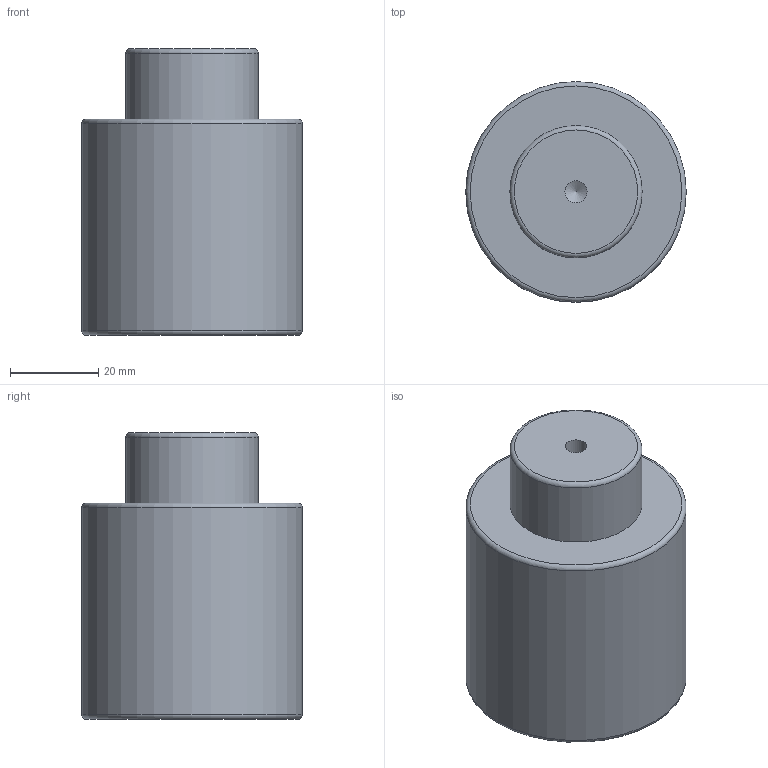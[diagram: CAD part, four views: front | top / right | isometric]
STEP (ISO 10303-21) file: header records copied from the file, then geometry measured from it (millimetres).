
FILE_DESCRIPTION(/* description */ (''),/* implementation_level */ '2;1');
FILE_NAME(/* name */ 'NV5-SMLX.50x15.stp',/* time_stamp */ '2018-08-31T16:08:34+02:00',/* author */ (''),/* organization */ (''),/* preprocessor_version */ 'ST-DEVELOPER v16',/* originating_system */ 'SIEMENS PLM Software NX 10.0',/* authorisation */ '');
FILE_SCHEMA (('AUTOMOTIVE_DESIGN { 1 0 10303 214 3 1 1 1 }'));
Length unit declared in the file: millimetre
Products named in the file (1): NV5-SMLX.50x15
Bounding box: 50 x 50 x 65 mm (x, y, z)
Volume: 106195.5 mm3; surface area: 13594.7 mm2
Topology: 1 solids, 1 shells, 12 faces, 24 edges, 15 vertices
Faces by surface type: cylinder 4, torus 3, plane 3, cone 2
Full cylindrical faces by diameter (mm): 5 x1, 8.5 x1, 30 x1, 50 x1
Entity records: 266 total; most frequent: DIRECTION 48, CARTESIAN_POINT 37, FACE_BOUND 24, AXIS2_PLACEMENT_3D 24, EDGE_LOOP 22, ORIENTED_EDGE 22, VERTEX_POINT 13, ADVANCED_FACE 12
